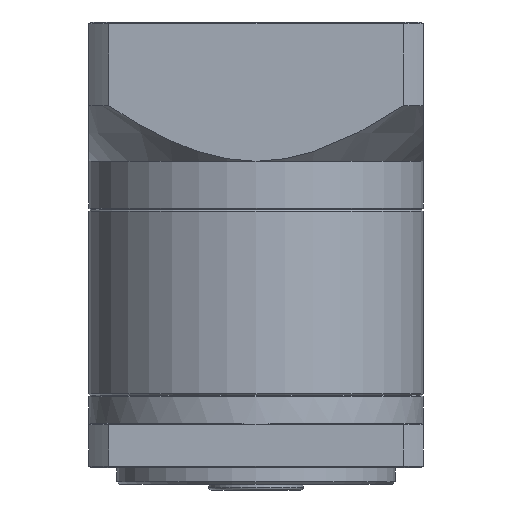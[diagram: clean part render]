
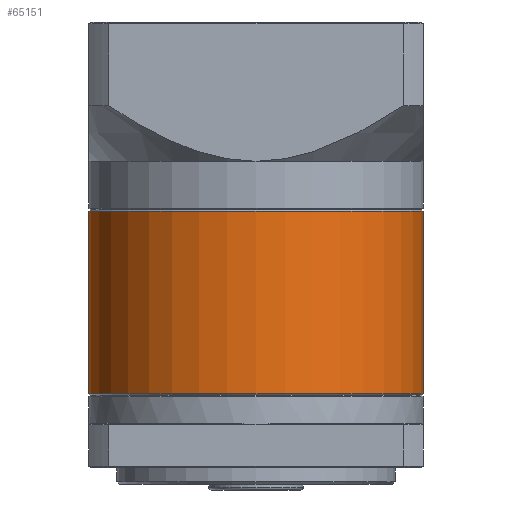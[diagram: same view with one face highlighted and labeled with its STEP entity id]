
A CAD part, front view. The second image highlights one B-rep face of the part: STEP entity #65151.
In plain terms, the highlighted cylindrical face has radius 30 mm (diameter 60 mm), a partial arc.
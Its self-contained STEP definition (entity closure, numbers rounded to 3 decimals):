
#873 = DIRECTION ( 'NONE',  ( 1., 0., 0. ) ) ;
#1153 = VECTOR ( 'NONE', #85368, 1000. ) ;
#2103 = ORIENTED_EDGE ( 'NONE', *, *, #42718, .F. ) ;
#3320 = LINE ( 'NONE', #15740, #1153 ) ;
#8206 = CARTESIAN_POINT ( 'NONE',  ( -28.144, 2.135, 88.9 ) ) ;
#9110 = VECTOR ( 'NONE', #30878, 1000. ) ;
#10388 = CYLINDRICAL_SURFACE ( 'NONE', #20256, 30. ) ;
#11717 = AXIS2_PLACEMENT_3D ( 'NONE', #61282, #20007, #68227 ) ;
#15740 = CARTESIAN_POINT ( 'NONE',  ( -28.144, 2.135, 121.95 ) ) ;
#15811 = DIRECTION ( 'NONE',  ( -1., 0., 0. ) ) ;
#16125 = CARTESIAN_POINT ( 'NONE',  ( 31.856, 2.135, 88.9 ) ) ;
#17930 = ORIENTED_EDGE ( 'NONE', *, *, #49130, .T. ) ;
#18021 = VERTEX_POINT ( 'NONE', #83225 ) ;
#18461 = VERTEX_POINT ( 'NONE', #71537 ) ;
#20007 = DIRECTION ( 'NONE',  ( 0., 0., -1. ) ) ;
#20256 = AXIS2_PLACEMENT_3D ( 'NONE', #29417, #77609, #15811 ) ;
#27397 = CIRCLE ( 'NONE', #11717, 30. ) ;
#27849 = EDGE_LOOP ( 'NONE', ( #2103, #74603, #64230, #17930 ) ) ;
#29417 = CARTESIAN_POINT ( 'NONE',  ( 1.856, 2.135, 121.95 ) ) ;
#30878 = DIRECTION ( 'NONE',  ( 0., 0., -1. ) ) ;
#37410 = FACE_OUTER_BOUND ( 'NONE', #27849, .T. ) ;
#42174 = DIRECTION ( 'NONE',  ( 0., 0., 1. ) ) ;
#42718 = EDGE_CURVE ( 'NONE', #18021, #71546, #61931, .T. ) ;
#46952 = EDGE_CURVE ( 'NONE', #18461, #69093, #3320, .T. ) ;
#47969 = CIRCLE ( 'NONE', #49361, 30. ) ;
#49130 = EDGE_CURVE ( 'NONE', #69093, #71546, #47969, .T. ) ;
#49361 = AXIS2_PLACEMENT_3D ( 'NONE', #83447, #42174, #873 ) ;
#54149 = EDGE_CURVE ( 'NONE', #18021, #18461, #27397, .T. ) ;
#61282 = CARTESIAN_POINT ( 'NONE',  ( 1.856, 2.135, 121.7 ) ) ;
#61931 = LINE ( 'NONE', #72083, #9110 ) ;
#64230 = ORIENTED_EDGE ( 'NONE', *, *, #46952, .T. ) ;
#65151 = ADVANCED_FACE ( 'NONE', ( #37410 ), #10388, .T. ) ;
#68227 = DIRECTION ( 'NONE',  ( 1., 0., 0. ) ) ;
#69093 = VERTEX_POINT ( 'NONE', #8206 ) ;
#71537 = CARTESIAN_POINT ( 'NONE',  ( -28.144, 2.135, 121.7 ) ) ;
#71546 = VERTEX_POINT ( 'NONE', #16125 ) ;
#72083 = CARTESIAN_POINT ( 'NONE',  ( 31.856, 2.135, 121.95 ) ) ;
#74603 = ORIENTED_EDGE ( 'NONE', *, *, #54149, .T. ) ;
#77609 = DIRECTION ( 'NONE',  ( 0., 0., -1. ) ) ;
#83225 = CARTESIAN_POINT ( 'NONE',  ( 31.856, 2.135, 121.7 ) ) ;
#83447 = CARTESIAN_POINT ( 'NONE',  ( 1.856, 2.135, 88.9 ) ) ;
#85368 = DIRECTION ( 'NONE',  ( 0., 0., -1. ) ) ;
